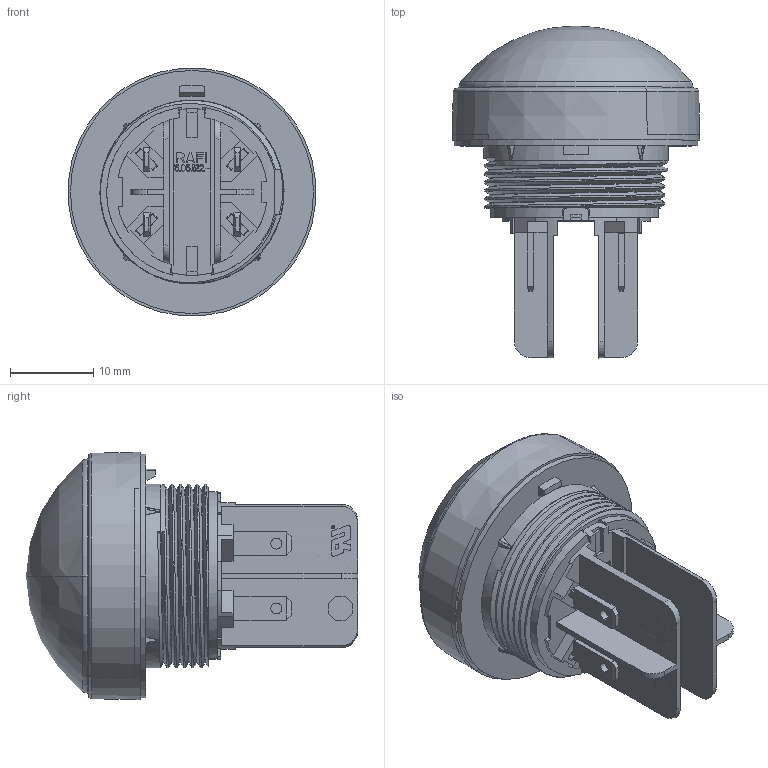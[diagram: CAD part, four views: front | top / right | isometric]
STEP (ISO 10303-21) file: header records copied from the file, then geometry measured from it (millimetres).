
FILE_DESCRIPTION((''),'2;1');
FILE_NAME('CAD_3D_R22-FS-174508111-08_3DST','2022-03-24T15:35:11',('H0101330'),(''),'CREO PARAMETRIC BY PTC INC, 2018500','CREO PARAMETRIC BY PTC INC, 2018500','');
FILE_SCHEMA(('AUTOMOTIVE_DESIGN { 1 0 10303 214 1 1 1 1 }'));
Length unit declared in the file: millimetre
Products named in the file (1): CAD_3D_R22-FS-174508111-08_3DST
Bounding box: 29.69 x 39.85 x 29.69 mm (x, y, z)
Volume: 11241.1 mm3; surface area: 4839.7 mm2
Topology: 2 solids, 2 shells, 648 faces, 1851 edges, 1223 vertices
Faces by surface type: plane 485, cylinder 88, bspline 36, extrusion 19, cone 10, torus 8, sphere 2
Entity records: 24694 total; most frequent: CARTESIAN_POINT 7884, ORIENTED_EDGE 3698, DIRECTION 3004, EDGE_CURVE 1849, VECTOR 1454, LINE 1435, VERTEX_POINT 1223, AXIS2_PLACEMENT_3D 775
